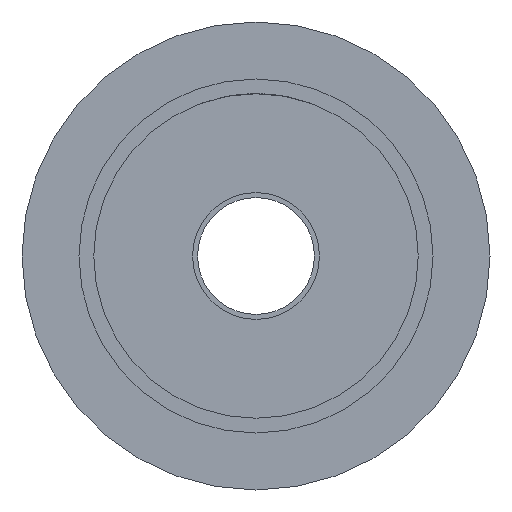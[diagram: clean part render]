
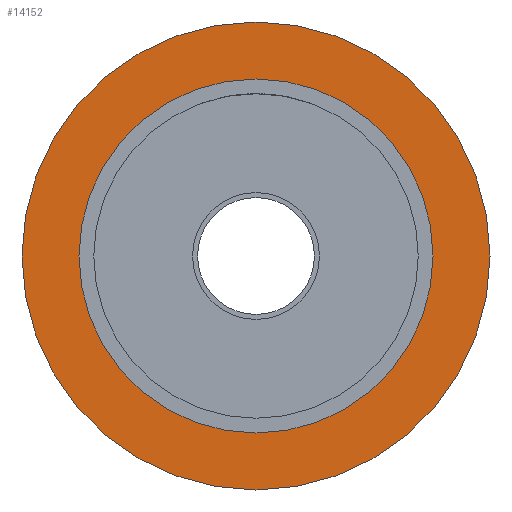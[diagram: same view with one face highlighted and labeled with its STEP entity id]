
A CAD part, front view. The second image highlights one B-rep face of the part: STEP entity #14152.
In plain terms, the highlighted planar face has unit normal (0, -1, 0).
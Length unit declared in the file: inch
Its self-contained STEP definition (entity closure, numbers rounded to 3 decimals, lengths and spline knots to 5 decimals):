
#14118=CARTESIAN_POINT('',(7.38189,13.0315,0.0));
#14119=VERTEX_POINT('',#14118);
#14120=CARTESIAN_POINT('',(0.0,13.0315,0.0));
#14121=DIRECTION('',(0.0,-1.0,0.0));
#14122=DIRECTION('',(1.0,0.0,0.0));
#14123=AXIS2_PLACEMENT_3D('',#14120,#14121,#14122);
#14124=CIRCLE('',#14123,7.38189);
#14125=EDGE_CURVE('',#14119,#14119,#14124,.T.);
#14133=CARTESIAN_POINT('',(6.48327,13.0315,0.0));
#14134=DIRECTION('',(0.0,-1.0,0.0));
#14135=DIRECTION('',(0.0,0.0,-1.0));
#14136=AXIS2_PLACEMENT_3D('',#14133,#14134,#14135);
#14137=PLANE('',#14136);
#14138=ORIENTED_EDGE('',*,*,#14125,.T.);
#14139=EDGE_LOOP('',(#14138));
#14140=FACE_OUTER_BOUND('',#14139,.T.);
#14141=CARTESIAN_POINT('',(5.58465,13.0315,0.0));
#14142=VERTEX_POINT('',#14141);
#14143=CARTESIAN_POINT('',(0.0,13.0315,0.0));
#14144=DIRECTION('',(0.0,-1.0,0.0));
#14145=DIRECTION('',(1.0,0.0,0.0));
#14146=AXIS2_PLACEMENT_3D('',#14143,#14144,#14145);
#14147=CIRCLE('',#14146,5.58465);
#14148=EDGE_CURVE('',#14142,#14142,#14147,.T.);
#14149=ORIENTED_EDGE('',*,*,#14148,.F.);
#14150=EDGE_LOOP('',(#14149));
#14151=FACE_BOUND('',#14150,.T.);
#14152=ADVANCED_FACE('',(#14140,#14151),#14137,.T.);
